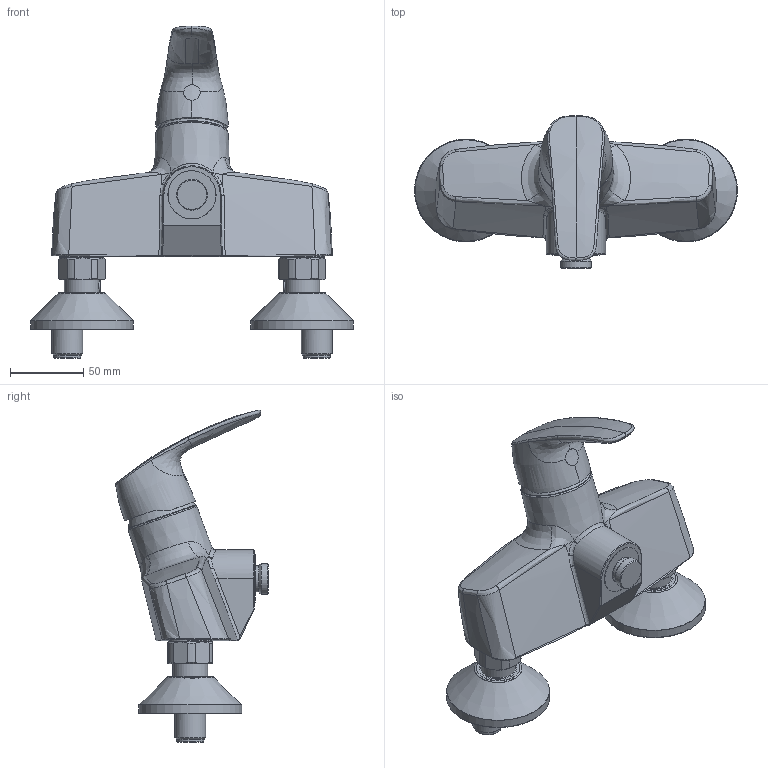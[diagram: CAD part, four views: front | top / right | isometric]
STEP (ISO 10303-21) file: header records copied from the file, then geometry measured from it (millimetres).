
FILE_DESCRIPTION (( 'STEP AP203' ), '1' );
FILE_NAME ('1075X(2017).STEP', '2017-03-09T05:42:24', ( '' ), ( '' ), 'SwSTEP 2.0', 'SolidWorks 2016', '' );
FILE_SCHEMA (( 'CONFIG_CONTROL_DESIGN' ));
Length unit declared in the file: millimetre
Products named in the file (1): 1075X(2017)
Bounding box: 220 x 104.06 x 226.14 mm (x, y, z)
Volume: 715552.7 mm3; surface area: 97233.1 mm2
Topology: 1 solids, 5 shells, 401 faces, 961 edges, 593 vertices
Faces by surface type: bspline 116, plane 110, cylinder 95, cone 59, torus 21
Full cylindrical faces by diameter (mm): 7.3 x2, 12.5 x2, 18 x1, 18.5 x2, 20.955 x3, 21.2 x2, 22.4 x2, 23.8 x2, 24 x2, 24.12 x2, 26 x4, 26.441 x2, 29 x2, 32.8 x1, 69.2 x2, 70 x2
Entity records: 26209 total; most frequent: CARTESIAN_POINT 18331, ORIENTED_EDGE 1736, DIRECTION 1342, EDGE_CURVE 868, AXIS2_PLACEMENT_3D 579, VERTEX_POINT 564, EDGE_LOOP 492, FACE_OUTER_BOUND 444
